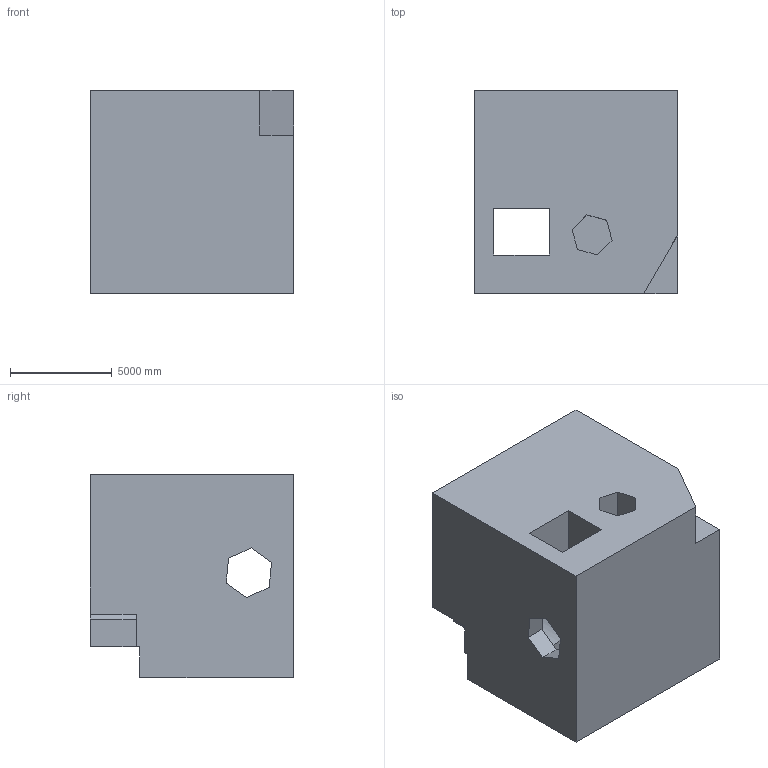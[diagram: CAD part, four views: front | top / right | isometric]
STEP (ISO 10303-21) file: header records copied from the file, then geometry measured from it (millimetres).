
FILE_DESCRIPTION (( 'STEP AP203' ), '1' );
FILE_NAME ('670.STEP', '2022-07-29T12:25:35', ( 'user' ), ( '' ), 'SwSTEP 2.0', 'SolidWorks 2021', '' );
FILE_SCHEMA (( 'CONFIG_CONTROL_DESIGN' ));
Length unit declared in the file: centimetre
Products named in the file (1): 670
Bounding box: 10000 x 10000 x 10000 mm (x, y, z)
Volume: 803855322107.7 mm3; surface area: 783399113.6 mm2
Topology: 1 solids, 1 shells, 40 faces, 123 edges, 82 vertices
Faces by surface type: plane 37, cylinder 3
Entity records: 1451 total; most frequent: CARTESIAN_POINT 264, ORIENTED_EDGE 246, DIRECTION 210, EDGE_CURVE 123, VECTOR 106, LINE 106, VERTEX_POINT 82, AXIS2_PLACEMENT_3D 52
